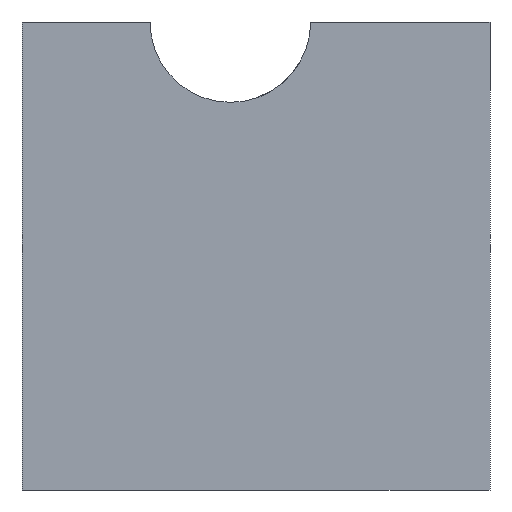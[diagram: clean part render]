
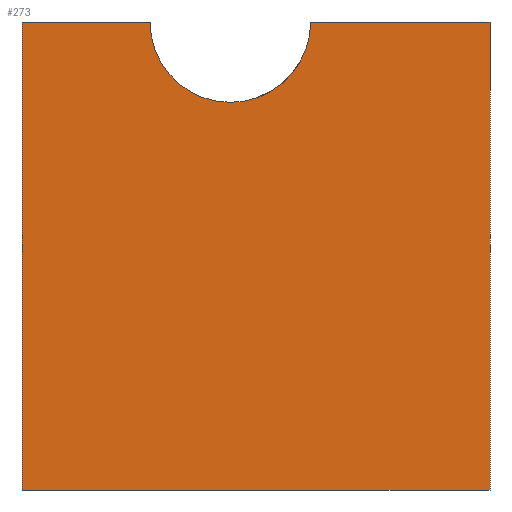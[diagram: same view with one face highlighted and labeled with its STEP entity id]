
A CAD part, left-side view. The second image highlights one B-rep face of the part: STEP entity #273.
In plain terms, the highlighted planar face has unit normal (-1, 0, 0).
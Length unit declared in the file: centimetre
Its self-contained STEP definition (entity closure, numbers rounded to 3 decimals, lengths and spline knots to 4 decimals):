
#10 = EDGE_LOOP ( 'NONE', ( #375, #204, #637, #113, #332, #212, #400 ) ) ;
#22 = DIRECTION ( 'NONE',  ( 0., 0., -1. ) ) ;
#25 = EDGE_CURVE ( 'NONE', #451, #370, #221, .T. ) ;
#32 = DIRECTION ( 'NONE',  ( 0., -1., 0. ) ) ;
#49 = CARTESIAN_POINT ( 'NONE',  ( 0., 383.0754, 1000. ) ) ;
#55 = DIRECTION ( 'NONE',  ( 1., 0., 0. ) ) ;
#66 = FACE_OUTER_BOUND ( 'NONE', #10, .T. ) ;
#76 = CARTESIAN_POINT ( 'NONE',  ( 0., 1000., 0. ) ) ;
#83 = LINE ( 'NONE', #530, #267 ) ;
#84 = CARTESIAN_POINT ( 'NONE',  ( 0., 1000., 0. ) ) ;
#90 = CIRCLE ( 'NONE', #405, 171.6633 ) ;
#101 = DIRECTION ( 'NONE',  ( 0., -1., 0. ) ) ;
#110 = DIRECTION ( 'NONE',  ( 0., 0., -1. ) ) ;
#113 = ORIENTED_EDGE ( 'NONE', *, *, #146, .F. ) ;
#144 = CARTESIAN_POINT ( 'NONE',  ( 0., 0., 1000. ) ) ;
#146 = EDGE_CURVE ( 'NONE', #451, #350, #83, .T. ) ;
#156 = AXIS2_PLACEMENT_3D ( 'NONE', #601, #159, #110 ) ;
#159 = DIRECTION ( 'NONE',  ( 1., 0., 0. ) ) ;
#165 = CARTESIAN_POINT ( 'NONE',  ( 0., 0., 1000. ) ) ;
#183 = CARTESIAN_POINT ( 'NONE',  ( 0., 726.402, 1000. ) ) ;
#204 = ORIENTED_EDGE ( 'NONE', *, *, #590, .T. ) ;
#209 = PLANE ( 'NONE',  #156 ) ;
#212 = ORIENTED_EDGE ( 'NONE', *, *, #403, .T. ) ;
#214 = VECTOR ( 'NONE', #331, 100. ) ;
#215 = EDGE_CURVE ( 'NONE', #583, #281, #390, .T. ) ;
#221 = LINE ( 'NONE', #613, #341 ) ;
#234 = VERTEX_POINT ( 'NONE', #245 ) ;
#240 = LINE ( 'NONE', #144, #337 ) ;
#245 = CARTESIAN_POINT ( 'NONE',  ( 0., 554.7387, 828.3367 ) ) ;
#267 = VECTOR ( 'NONE', #32, 100. ) ;
#272 = LINE ( 'NONE', #84, #214 ) ;
#273 = ADVANCED_FACE ( 'NONE', ( #66 ), #209, .F. ) ;
#281 = VERTEX_POINT ( 'NONE', #165 ) ;
#289 = CARTESIAN_POINT ( 'NONE',  ( 0., 554.7387, 1000. ) ) ;
#331 = DIRECTION ( 'NONE',  ( 0., -1., 0. ) ) ;
#332 = ORIENTED_EDGE ( 'NONE', *, *, #25, .T. ) ;
#337 = VECTOR ( 'NONE', #488, 100. ) ;
#341 = VECTOR ( 'NONE', #22, 100. ) ;
#345 = CARTESIAN_POINT ( 'NONE',  ( 0., 554.7387, 1000. ) ) ;
#350 = VERTEX_POINT ( 'NONE', #183 ) ;
#366 = CIRCLE ( 'NONE', #450, 171.6633 ) ;
#370 = VERTEX_POINT ( 'NONE', #76 ) ;
#375 = ORIENTED_EDGE ( 'NONE', *, *, #215, .F. ) ;
#390 = LINE ( 'NONE', #399, #506 ) ;
#399 = CARTESIAN_POINT ( 'NONE',  ( 0., 1000., 1000. ) ) ;
#400 = ORIENTED_EDGE ( 'NONE', *, *, #610, .F. ) ;
#403 = EDGE_CURVE ( 'NONE', #370, #526, #272, .T. ) ;
#405 = AXIS2_PLACEMENT_3D ( 'NONE', #345, #55, #433 ) ;
#433 = DIRECTION ( 'NONE',  ( 0., 0., -1. ) ) ;
#450 = AXIS2_PLACEMENT_3D ( 'NONE', #289, #632, #594 ) ;
#451 = VERTEX_POINT ( 'NONE', #476 ) ;
#476 = CARTESIAN_POINT ( 'NONE',  ( 0., 1000., 1000. ) ) ;
#488 = DIRECTION ( 'NONE',  ( 0., 0., -1. ) ) ;
#506 = VECTOR ( 'NONE', #101, 100. ) ;
#526 = VERTEX_POINT ( 'NONE', #582 ) ;
#530 = CARTESIAN_POINT ( 'NONE',  ( 0., 1000., 1000. ) ) ;
#553 = EDGE_CURVE ( 'NONE', #234, #350, #90, .T. ) ;
#582 = CARTESIAN_POINT ( 'NONE',  ( 0., 0., 0. ) ) ;
#583 = VERTEX_POINT ( 'NONE', #49 ) ;
#590 = EDGE_CURVE ( 'NONE', #583, #234, #366, .T. ) ;
#594 = DIRECTION ( 'NONE',  ( 0., 0., -1. ) ) ;
#601 = CARTESIAN_POINT ( 'NONE',  ( 0., 1000., 1000. ) ) ;
#610 = EDGE_CURVE ( 'NONE', #281, #526, #240, .T. ) ;
#613 = CARTESIAN_POINT ( 'NONE',  ( 0., 1000., 1000. ) ) ;
#632 = DIRECTION ( 'NONE',  ( 1., 0., 0. ) ) ;
#637 = ORIENTED_EDGE ( 'NONE', *, *, #553, .T. ) ;
